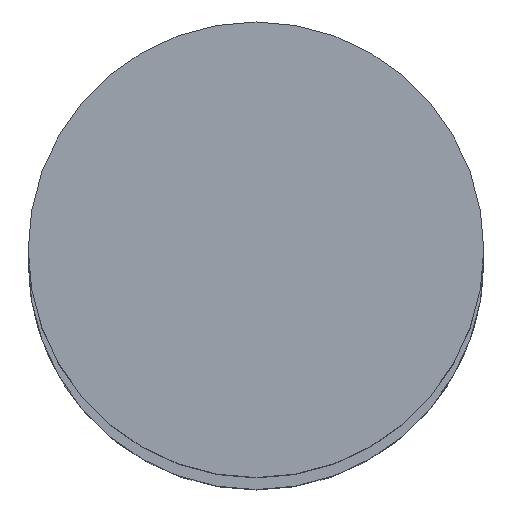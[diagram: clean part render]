
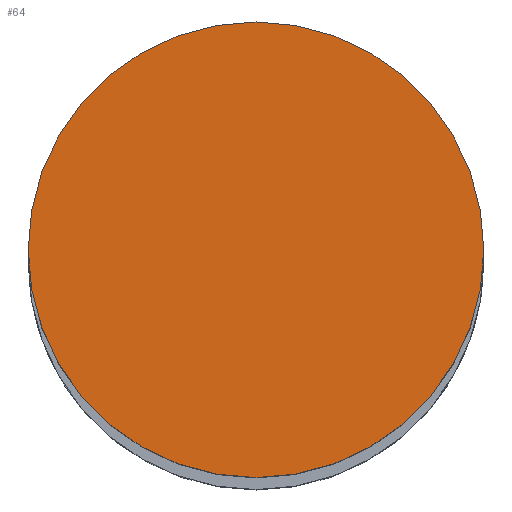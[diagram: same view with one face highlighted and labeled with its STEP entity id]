
A CAD part, top view. The second image highlights one B-rep face of the part: STEP entity #64.
In plain terms, the highlighted planar face has unit normal (0, 0, 1).
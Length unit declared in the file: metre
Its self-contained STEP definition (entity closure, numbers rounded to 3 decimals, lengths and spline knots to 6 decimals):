
#64=ADVANCED_FACE('25:217',(#136),#137,.T.);
#136=FACE_OUTER_BOUND('',#225,.T.);
#137=PLANE('',#226);
#225=EDGE_LOOP('',(#317,#318));
#226=AXIS2_PLACEMENT_3D('',#319,#320,#321);
#317=ORIENTED_EDGE('',*,*,#496,.F.);
#318=ORIENTED_EDGE('',*,*,#497,.F.);
#319=CARTESIAN_POINT('',(0.0,0.0,3.134));
#320=DIRECTION('',(0.0,0.0,1.0));
#321=DIRECTION('',(1.0,0.0,0.0));
#496=EDGE_CURVE('',#583,#584,#585,.F.);
#497=EDGE_CURVE('',#584,#583,#586,.F.);
#583=VERTEX_POINT('',#708);
#584=VERTEX_POINT('',#709);
#585=CIRCLE('',#710,0.0155);
#586=CIRCLE('',#711,0.0155);
#708=CARTESIAN_POINT('',(-0.015592,0.000095,3.134));
#709=CARTESIAN_POINT('',(0.015408,0.000095,3.134));
#710=AXIS2_PLACEMENT_3D('',#839,#840,#841);
#711=AXIS2_PLACEMENT_3D('',#842,#843,#844);
#839=CARTESIAN_POINT('',(-0.000092,0.000095,3.134));
#840=DIRECTION('',(0.0,0.0,1.0));
#841=DIRECTION('',(1.0,0.0,0.0));
#842=CARTESIAN_POINT('',(-0.000092,0.000095,3.134));
#843=DIRECTION('',(0.0,0.0,1.0));
#844=DIRECTION('',(1.0,0.0,0.0));
